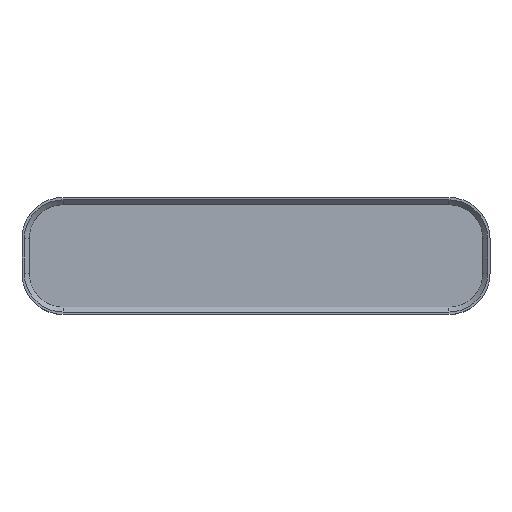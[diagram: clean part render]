
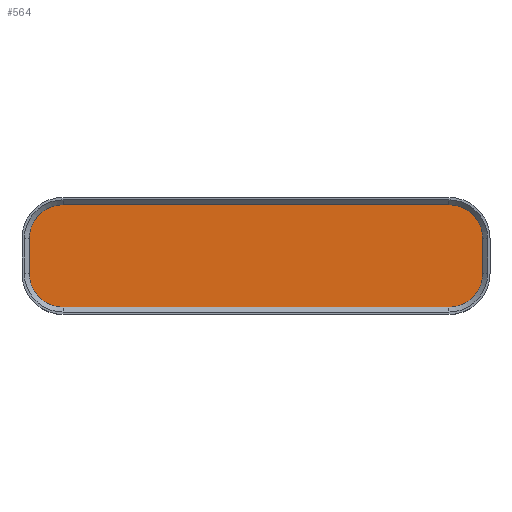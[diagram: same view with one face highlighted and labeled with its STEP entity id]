
A CAD part, top view. The second image highlights one B-rep face of the part: STEP entity #564.
In plain terms, the highlighted planar face has unit normal (0, 0, 1).
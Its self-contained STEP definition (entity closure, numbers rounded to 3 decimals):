
#30=PLANE('',#643);
#69=LINE('',#963,#117);
#72=LINE('',#971,#120);
#75=LINE('',#984,#123);
#76=LINE('',#987,#124);
#117=VECTOR('',#790,10.);
#120=VECTOR('',#799,10.);
#123=VECTOR('',#812,10.);
#124=VECTOR('',#815,10.);
#169=FACE_OUTER_BOUND('',#205,.T.);
#205=EDGE_LOOP('',(#494,#495,#496,#497,#498,#499,#500,#501));
#240=CIRCLE('',#635,14.);
#241=CIRCLE('',#638,14.);
#244=CIRCLE('',#644,14.);
#245=CIRCLE('',#645,14.);
#283=VERTEX_POINT('',#955);
#284=VERTEX_POINT('',#957);
#285=VERTEX_POINT('',#961);
#286=VERTEX_POINT('',#965);
#287=VERTEX_POINT('',#969);
#291=VERTEX_POINT('',#981);
#292=VERTEX_POINT('',#983);
#293=VERTEX_POINT('',#985);
#352=EDGE_CURVE('',#283,#284,#240,.T.);
#355=EDGE_CURVE('',#285,#283,#69,.T.);
#357=EDGE_CURVE('',#286,#285,#241,.T.);
#359=EDGE_CURVE('',#287,#286,#72,.T.);
#364=EDGE_CURVE('',#291,#287,#244,.T.);
#365=EDGE_CURVE('',#292,#291,#75,.T.);
#366=EDGE_CURVE('',#293,#292,#245,.T.);
#367=EDGE_CURVE('',#284,#293,#76,.T.);
#494=ORIENTED_EDGE('',*,*,#364,.F.);
#495=ORIENTED_EDGE('',*,*,#365,.F.);
#496=ORIENTED_EDGE('',*,*,#366,.F.);
#497=ORIENTED_EDGE('',*,*,#367,.F.);
#498=ORIENTED_EDGE('',*,*,#352,.F.);
#499=ORIENTED_EDGE('',*,*,#355,.F.);
#500=ORIENTED_EDGE('',*,*,#357,.F.);
#501=ORIENTED_EDGE('',*,*,#359,.F.);
#564=ADVANCED_FACE('',(#169),#30,.T.);
#635=AXIS2_PLACEMENT_3D('',#958,#784,#785);
#638=AXIS2_PLACEMENT_3D('',#967,#794,#795);
#643=AXIS2_PLACEMENT_3D('',#980,#808,#809);
#644=AXIS2_PLACEMENT_3D('',#982,#810,#811);
#645=AXIS2_PLACEMENT_3D('',#986,#813,#814);
#784=DIRECTION('center_axis',(0.,0.,-1.));
#785=DIRECTION('ref_axis',(0.,-1.,0.));
#790=DIRECTION('',(0.,-1.,0.));
#794=DIRECTION('center_axis',(0.,0.,-1.));
#795=DIRECTION('ref_axis',(1.,0.,0.));
#799=DIRECTION('',(1.,0.,0.));
#808=DIRECTION('center_axis',(0.,0.,1.));
#809=DIRECTION('ref_axis',(1.,0.,0.));
#810=DIRECTION('center_axis',(0.,0.,-1.));
#811=DIRECTION('ref_axis',(0.,1.,0.));
#812=DIRECTION('',(0.,1.,0.));
#813=DIRECTION('center_axis',(0.,0.,-1.));
#814=DIRECTION('ref_axis',(-1.,0.,0.));
#815=DIRECTION('',(-1.,0.,0.));
#955=CARTESIAN_POINT('',(191.,17.,3.));
#957=CARTESIAN_POINT('',(177.,3.,3.));
#958=CARTESIAN_POINT('Origin',(177.,17.,3.));
#961=CARTESIAN_POINT('',(191.,31.5,3.));
#963=CARTESIAN_POINT('',(191.,27.875,3.));
#965=CARTESIAN_POINT('',(177.,45.5,3.));
#967=CARTESIAN_POINT('Origin',(177.,31.5,3.));
#969=CARTESIAN_POINT('',(17.,45.5,3.));
#971=CARTESIAN_POINT('',(57.,45.5,3.));
#980=CARTESIAN_POINT('Origin',(97.,24.25,3.));
#981=CARTESIAN_POINT('',(3.,31.5,3.));
#982=CARTESIAN_POINT('Origin',(17.,31.5,3.));
#983=CARTESIAN_POINT('',(3.,17.,3.));
#984=CARTESIAN_POINT('',(3.,20.625,3.));
#985=CARTESIAN_POINT('',(17.,3.,3.));
#986=CARTESIAN_POINT('Origin',(17.,17.,3.));
#987=CARTESIAN_POINT('',(137.,3.,3.));
